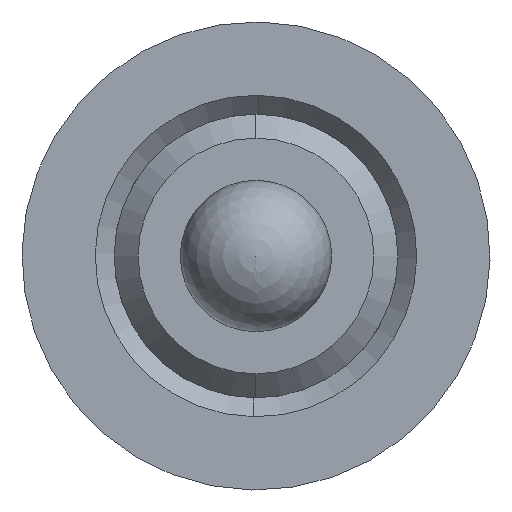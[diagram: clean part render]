
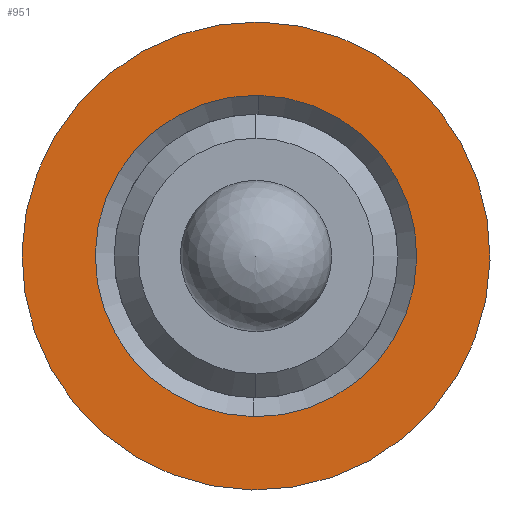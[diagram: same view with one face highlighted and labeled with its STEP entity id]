
A CAD part, left-side view. The second image highlights one B-rep face of the part: STEP entity #951.
In plain terms, the highlighted planar face has unit normal (-1, 0, 0).
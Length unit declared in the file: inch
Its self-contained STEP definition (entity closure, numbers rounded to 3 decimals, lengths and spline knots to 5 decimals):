
#5 = VERTEX_POINT ( 'NONE', #1419 ) ;
#15 = EDGE_CURVE ( 'NONE', #5, #851, #1134, .T. ) ;
#128 = ORIENTED_EDGE ( 'NONE', *, *, #15, .T. ) ;
#132 = ORIENTED_EDGE ( 'NONE', *, *, #1403, .T. ) ;
#161 = DIRECTION ( 'NONE',  ( 0., -1., -0.017 ) ) ;
#163 = DIRECTION ( 'NONE',  ( -1., 0., 0. ) ) ;
#167 = CARTESIAN_POINT ( 'NONE',  ( 0.00451, 0.23812, 0.37369 ) ) ;
#212 = AXIS2_PLACEMENT_3D ( 'NONE', #896, #895, #886 ) ;
#290 = DIRECTION ( 'NONE',  ( 0., 1., 0.017 ) ) ;
#292 = DIRECTION ( 'NONE',  ( 1., 0., 0. ) ) ;
#294 = CARTESIAN_POINT ( 'NONE',  ( 0.00451, 0.23812, 0.37369 ) ) ;
#418 = CIRCLE ( 'NONE', #806, 0.06693 ) ;
#482 = CARTESIAN_POINT ( 'NONE',  ( 0.00451, 0.23812, 0.37369 ) ) ;
#491 = DIRECTION ( 'NONE',  ( 0., -1., -0.017 ) ) ;
#603 = AXIS2_PLACEMENT_3D ( 'NONE', #482, #1137, #491 ) ;
#616 = FACE_OUTER_BOUND ( 'NONE', #836, .T. ) ;
#680 = EDGE_LOOP ( 'NONE', ( #834, #756 ) ) ;
#692 = AXIS2_PLACEMENT_3D ( 'NONE', #167, #163, #161 ) ;
#711 = AXIS2_PLACEMENT_3D ( 'NONE', #980, #978, #975 ) ;
#756 = ORIENTED_EDGE ( 'NONE', *, *, #1320, .T. ) ;
#785 = VERTEX_POINT ( 'NONE', #1028 ) ;
#806 = AXIS2_PLACEMENT_3D ( 'NONE', #294, #292, #290 ) ;
#829 = EDGE_CURVE ( 'NONE', #785, #921, #1058, .T. ) ;
#834 = ORIENTED_EDGE ( 'NONE', *, *, #829, .T. ) ;
#836 = EDGE_LOOP ( 'NONE', ( #132, #128 ) ) ;
#851 = VERTEX_POINT ( 'NONE', #985 ) ;
#886 = DIRECTION ( 'NONE',  ( 0., 1., 0.017 ) ) ;
#895 = DIRECTION ( 'NONE',  ( 1., 0., 0. ) ) ;
#896 = CARTESIAN_POINT ( 'NONE',  ( 0.00451, 0.33554, 0.37539 ) ) ;
#912 = PLANE ( 'NONE',  #212 ) ;
#921 = VERTEX_POINT ( 'NONE', #935 ) ;
#935 = CARTESIAN_POINT ( 'NONE',  ( 0.00451, 0.23929, 0.30677 ) ) ;
#951 = ADVANCED_FACE ( 'NONE', ( #982, #616 ), #912, .F. ) ;
#975 = DIRECTION ( 'NONE',  ( 0., 1., 0.017 ) ) ;
#978 = DIRECTION ( 'NONE',  ( 1., 0., 0. ) ) ;
#980 = CARTESIAN_POINT ( 'NONE',  ( 0.00451, 0.23812, 0.37369 ) ) ;
#982 = FACE_BOUND ( 'NONE', #680, .T. ) ;
#985 = CARTESIAN_POINT ( 'NONE',  ( 0.00451, 0.14069, 0.37198 ) ) ;
#1028 = CARTESIAN_POINT ( 'NONE',  ( 0.00451, 0.23695, 0.44061 ) ) ;
#1058 = CIRCLE ( 'NONE', #711, 0.06693 ) ;
#1134 = CIRCLE ( 'NONE', #603, 0.09744 ) ;
#1137 = DIRECTION ( 'NONE',  ( -1., 0., 0. ) ) ;
#1320 = EDGE_CURVE ( 'NONE', #921, #785, #418, .T. ) ;
#1403 = EDGE_CURVE ( 'NONE', #851, #5, #1411, .T. ) ;
#1411 = CIRCLE ( 'NONE', #692, 0.09744 ) ;
#1419 = CARTESIAN_POINT ( 'NONE',  ( 0.00451, 0.33554, 0.37539 ) ) ;
